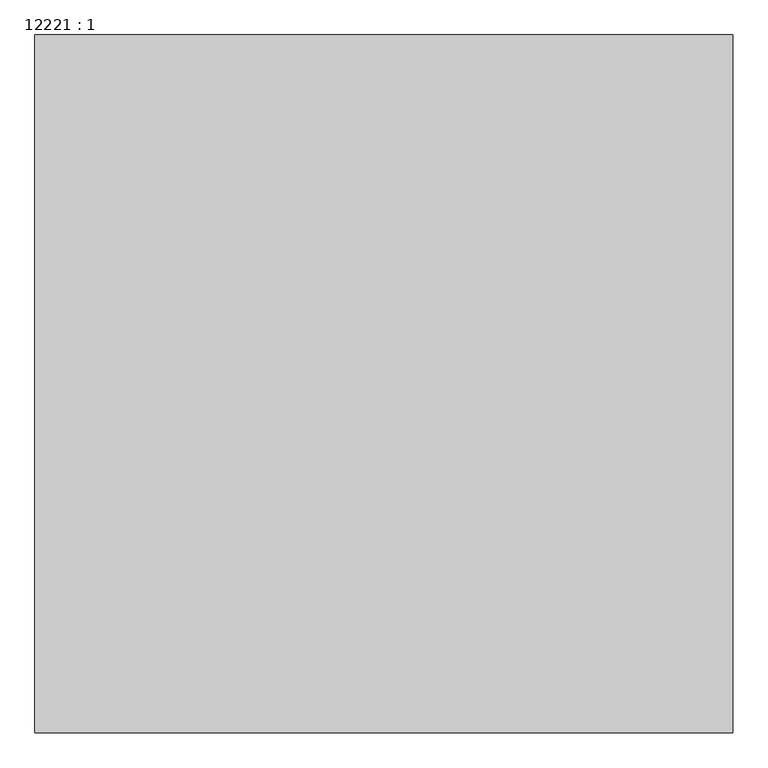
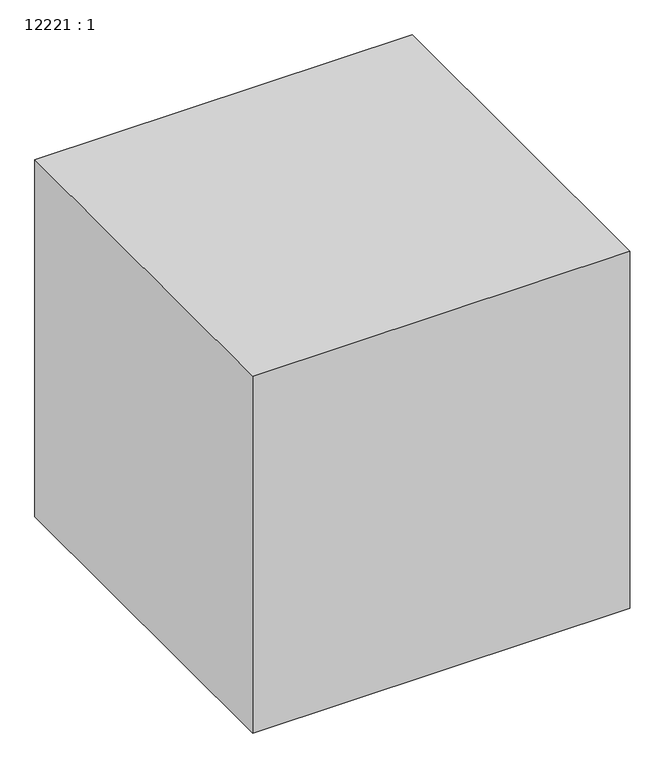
"""IFC4 building model written with IfcOpenShell, lengths in millimetres: proxy geometry, 12221 : 1."""

import ifcopenshell
import ifcopenshell.guid

model = None  # the IFC model being written
_history = None  # IfcOwnerHistory: only IFC2X3 demands one
_inside = {}  # id of a spatial element -> (the spatial element, [elements in it])
_under = {}  # id of a project, library or spatial element -> (it, [spatial elements below it])
_declared = {}  # id of a project -> (the project, [libraries it declares])
_typed = {}  # id of a type object -> (the type object, [elements of that type])
_made_of = {}  # id of a material, layer set ... -> (it, [elements and type objects made of it])


def new_model(schema):
    """Start an empty IFC model of exactly this schema.

    Asked for "IFC4X3", IfcOpenShell would pick the latest addendum, in which some entities
    have other attributes; the version numbers below select the first issue.
    IFC2X3 requires an IfcOwnerHistory on every rooted entity: one is made here for all.
    """
    global model, _history
    if schema == "IFC4X3":
        model = ifcopenshell.file(schema_version=(4, 3, 0, 0))
    else:
        model = ifcopenshell.file(schema=schema)
    _inside.clear()
    _under.clear()
    _declared.clear()
    _typed.clear()
    _made_of.clear()
    _history = None
    if model.schema == "IFC2X3":
        org = make("IfcOrganization", Name="unknown")
        user = make(
            "IfcPersonAndOrganization",
            ThePerson=make("IfcPerson", FamilyName="unknown"),
            TheOrganization=org,
        )
        app = make(
            "IfcApplication",
            ApplicationDeveloper=org,
            Version="unknown",
            ApplicationFullName="unknown",
            ApplicationIdentifier="unknown",
        )
        _history = make(
            "IfcOwnerHistory",
            OwningUser=user,
            OwningApplication=app,
            ChangeAction="ADDED",
            CreationDate=0,
        )
    return model


def make(cls, **values):
    """One entity of the class cls with the attributes given. An attribute that is None is left unset."""
    return model.create_entity(
        cls, **{name: value for name, value in values.items() if value is not None}
    )


def rooted(cls, **values):
    """An entity with a GlobalId (a new one), such as an element, a storey or a relation."""
    return make(cls, GlobalId=ifcopenshell.guid.new(), OwnerHistory=_history, **values)


def si_unit(unit_type, name, prefix=None):
    """IfcSIUnit, for example si_unit("LENGTHUNIT", "METRE", prefix="MILLI")."""
    return make("IfcSIUnit", UnitType=unit_type, Prefix=prefix, Name=name)


def assignment(units):
    """IfcUnitAssignment: the units of a project."""
    return None if units is None else make("IfcUnitAssignment", Units=units)


def point(xyz):
    """IfcCartesianPoint."""
    return None if xyz is None else make("IfcCartesianPoint", Coordinates=xyz)


def direction(xyz):
    """IfcDirection."""
    return None if xyz is None else make("IfcDirection", DirectionRatios=xyz)


def frame(location, z_axis=None, x_axis=None):
    """IfcAxis2Placement3D, a coordinate frame: its origin and axes. An axis left out is left unset."""
    return make(
        "IfcAxis2Placement3D",
        Location=point(location),
        Axis=direction(z_axis),
        RefDirection=direction(x_axis),
    )


def origin():
    """The frame at (0, 0, 0) with its axes left unset."""
    return frame((0.0, 0.0, 0.0))


def origin_with_axes():
    """The frame at (0, 0, 0) with the z axis (0, 0, 1) and the x axis (1, 0, 0) written out."""
    return frame((0.0, 0.0, 0.0), z_axis=(0.0, 0.0, 1.0), x_axis=(1.0, 0.0, 0.0))


def place(relative_to, where):
    """IfcLocalPlacement: puts the frame where relative to a parent placement (None: the world)."""
    return make(
        "IfcLocalPlacement", PlacementRelTo=relative_to, RelativePlacement=where
    )


def context(
    kind, dimensions, precision=None, world=None, true_north=None, identifier=None
):
    """IfcGeometricRepresentationContext, for example the 3D "Model" context."""
    return make(
        "IfcGeometricRepresentationContext",
        ContextIdentifier=identifier,
        ContextType=kind,
        CoordinateSpaceDimension=dimensions,
        Precision=precision,
        WorldCoordinateSystem=world,
        TrueNorth=true_north,
    )


def project(units=None, contexts=None):
    """IfcProject with its units and contexts."""
    return rooted(
        "IfcProject",
        Name="project",
        RepresentationContexts=contexts,
        UnitsInContext=assignment(units),
    )


def spatial(cls, under=None, at=None, **own):
    """A site, building, storey or space (cls), placed at a placement, below another one or the project."""
    s = rooted(cls, ObjectPlacement=at, **own)
    if under is not None:
        _under.setdefault(under.id(), (under, []))[1].append(s)
    return s


def polyline(points):
    """IfcPolyline through the points."""
    return make("IfcPolyline", Points=[point(p) for p in points])


def outline(outer, holes=None, kind="AREA"):
    """IfcArbitraryClosedProfileDef: a profile drawn as a closed curve; with holes, ...WithVoids."""
    if holes is None:
        return make("IfcArbitraryClosedProfileDef", ProfileType=kind, OuterCurve=outer)
    return make(
        "IfcArbitraryProfileDefWithVoids",
        ProfileType=kind,
        OuterCurve=outer,
        InnerCurves=holes,
    )


def extrude(swept, where, along, depth):
    """IfcExtrudedAreaSolid: the profile swept, set in the frame where, extruded along a direction by depth."""
    return make(
        "IfcExtrudedAreaSolid",
        SweptArea=swept,
        Position=where,
        ExtrudedDirection=direction(along),
        Depth=depth,
    )


def shape(context_of_items, identifier, shape_type, items):
    """IfcShapeRepresentation: the items that make up one representation, for example the "Body"."""
    return make(
        "IfcShapeRepresentation",
        ContextOfItems=context_of_items,
        RepresentationIdentifier=identifier,
        RepresentationType=shape_type,
        Items=items,
    )


def source(mapping_origin, context_of_items, identifier, shape_type, items):
    """IfcRepresentationMap: a shape defined once, which mapped items show again and again."""
    return make(
        "IfcRepresentationMap",
        MappingOrigin=mapping_origin,
        MappedRepresentation=shape(context_of_items, identifier, shape_type, items),
    )


def transform(
    local_origin,
    x_axis=None,
    y_axis=None,
    z_axis=None,
    scale=None,
    scale2=None,
    scale3=None,
    uniform=True,
):
    """IfcCartesianTransformationOperator3D, or its non-uniform kind. x_axis, y_axis, z_axis: its Axis1, 2, 3."""
    if uniform:
        return make(
            "IfcCartesianTransformationOperator3D",
            Axis1=direction(x_axis),
            Axis2=direction(y_axis),
            LocalOrigin=point(local_origin),
            Scale=scale,
            Axis3=direction(z_axis),
        )
    return make(
        "IfcCartesianTransformationOperator3DnonUniform",
        Axis1=direction(x_axis),
        Axis2=direction(y_axis),
        LocalOrigin=point(local_origin),
        Scale=scale,
        Axis3=direction(z_axis),
        Scale2=scale2,
        Scale3=scale3,
    )


def mapped(mapping_source, mapping_target):
    """IfcMappedItem: shows the shape of a source again, moved by a transform."""
    return make(
        "IfcMappedItem", MappingSource=mapping_source, MappingTarget=mapping_target
    )


def made_of(thing, what):
    """Note that an element or type object is made of a material, layer set ...; save() writes the relation."""
    if what is not None:
        _made_of.setdefault(what.id(), (what, []))[1].append(thing)
    return thing


def element(
    cls,
    number,
    at=None,
    inside=None,
    cuts=None,
    type_object=None,
    material=None,
    context=None,
    identifier="Body",
    shape_type=None,
    held_by="IfcProductDefinitionShape",
    body=None,
    shapes=None,
    **own,
):
    """One element of the class cls, such as IfcWall. Its Tag is "e" and its number.

    at: its placement. inside: the storey or other place that contains it. cuts: it is an
    opening in that element (IfcRelVoidsElement). A single representation is given by context,
    identifier, shape_type and body (its items); several are given by shapes. held_by: the class
    of the entity that holds the representations. save() writes the other relations.
    """
    e = rooted(cls, Tag="e%d" % number, ObjectPlacement=at, **own)
    if body is not None:
        shapes = [shape(context, identifier, shape_type, body)]
    if shapes is not None:
        e.Representation = make(held_by, Representations=shapes)
    if inside is not None:
        _inside.setdefault(inside.id(), (inside, []))[1].append(e)
    if cuts is not None:
        rooted(
            "IfcRelVoidsElement", RelatingBuildingElement=cuts, RelatedOpeningElement=e
        )
    if type_object is not None:
        _typed.setdefault(type_object.id(), (type_object, []))[1].append(e)
    return made_of(e, material)


def aggregate(whole, parts):
    """IfcRelAggregates: a whole, such as a stair, and the parts it consists of."""
    return rooted("IfcRelAggregates", RelatingObject=whole, RelatedObjects=parts)


def save(model, path):
    """Write the relations noted so far, then the file.

    IfcRelAggregates (storeys below a building ...), IfcRelContainedInSpatialStructure (elements
    in a storey), IfcRelDefinesByType, IfcRelAssociatesMaterial and IfcRelDeclares: one each for
    every whole, place, type object, material and project.
    """
    for whole, parts in _under.values():
        aggregate(whole, parts)
    for where, things in _inside.values():
        rooted(
            "IfcRelContainedInSpatialStructure",
            RelatedElements=things,
            RelatingStructure=where,
        )
    for kind, things in _typed.values():
        rooted("IfcRelDefinesByType", RelatedObjects=things, RelatingType=kind)
    for what, things in _made_of.values():
        rooted("IfcRelAssociatesMaterial", RelatedObjects=things, RelatingMaterial=what)
    for by, libraries in _declared.values():
        rooted("IfcRelDeclares", RelatingContext=by, RelatedDefinitions=libraries)
    model.write(path)


def proxy_12221_1_fe18749b(model_context):
    return source(origin(), model_context, "Body", "SweptSolid", [
        extrude(outline(polyline([(-8307.9756708, 11335.2294472), (-8307.9756708, 10335.2294472), (-9307.9756708, 10335.2294472), (-9307.9756708, 11335.2294472), (-8307.9756708, 11335.2294472)])), origin_with_axes(), (0.0, 0.0, 1.0), 1000.0),
    ])


if __name__ == "__main__":
    model = new_model("IFC4")
    model_context = context("Model", 3, world=origin())
    ifc_project = project(units=[si_unit("LENGTHUNIT", "METRE", prefix="MILLI")], contexts=[model_context])
    site = spatial("IfcSite", under=ifc_project)
    building = spatial("IfcBuilding", under=site)
    placement = place(None, origin())
    proxy_12221_1_shape = proxy_12221_1_fe18749b(model_context)
    element("IfcBuildingElementProxy", 1, Name="12221 : 1", ObjectType="12221 : 1", at=placement, inside=building, context=model_context, shape_type="MappedRepresentation", body=[
        mapped(proxy_12221_1_shape, transform((0.0, 0.0, 0.0), x_axis=(1.0, 0.0, 0.0), y_axis=(0.0, 1.0, 0.0), z_axis=(0.0, 0.0, 1.0))),
    ])
    save(model, "model.ifc")
